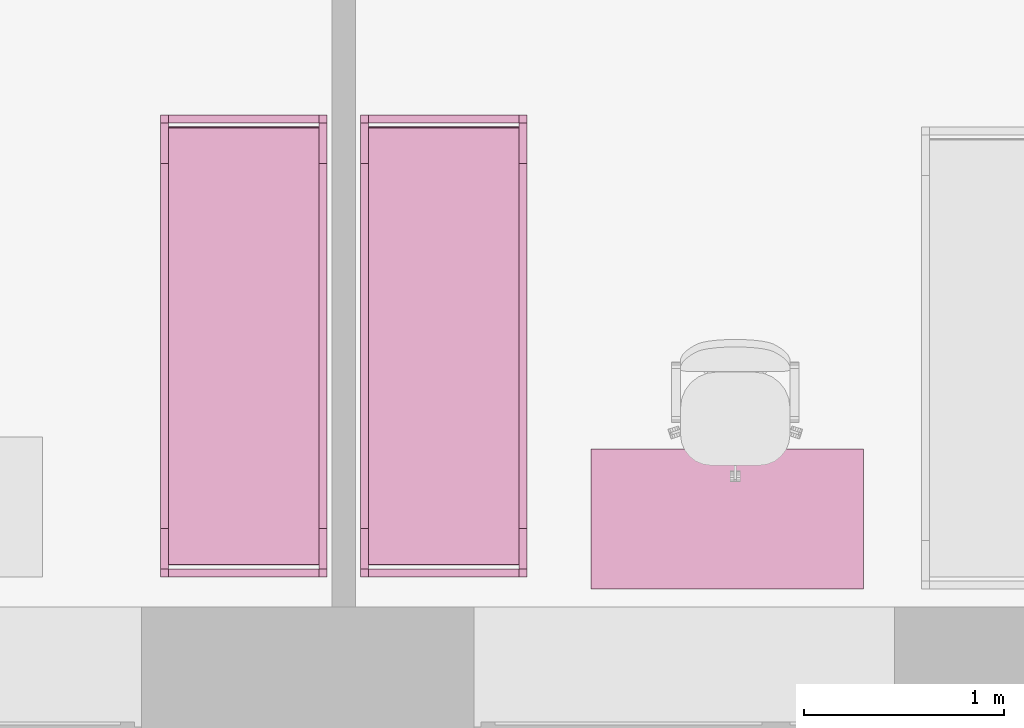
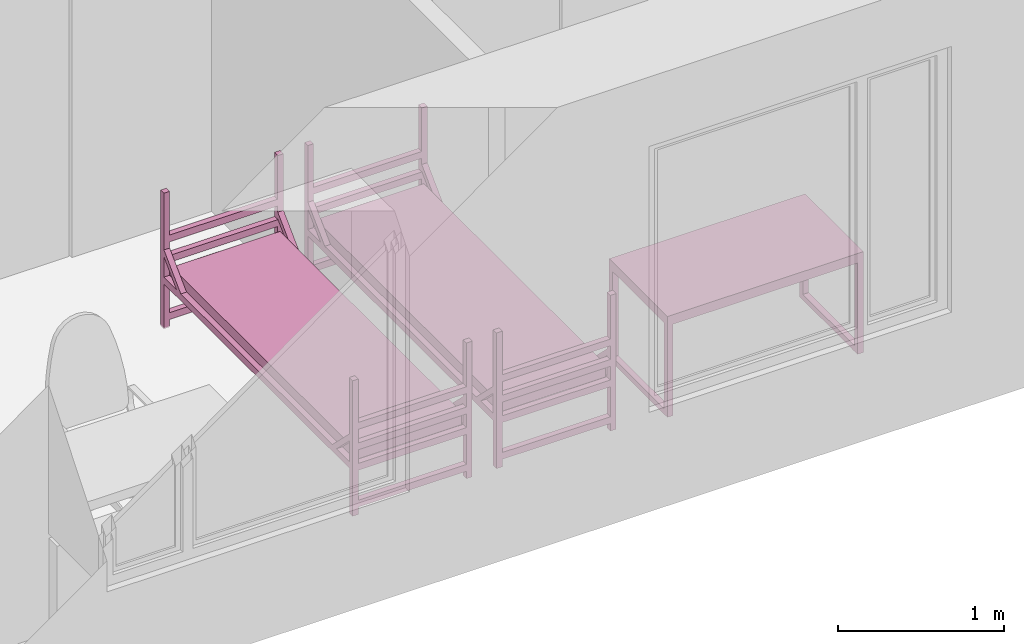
# One storey, part 21 of 46: 3 furnishings.
"""IFC2X3 building model written with IfcOpenShell, lengths in millimetres."""

from ifc_helpers import new_model, entity, si_unit, converted_unit, derived_unit, direction, frame, frame_2d, origin, origin_2d_with_axis, place, context, subcontext, project, spatial, polyline, circle_curve, parameter, trimmed, segment, composite_curve, rectangle, outline, extrude, faceted_brep, source, transform, mapped, material, material_list, type_object, type_shapes, element, save


model = new_model("IFC2X3")

# Units and contexts
model_context = context("Model", 3, precision=0.01, world=origin(), true_north=direction((6.12303176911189e-17, 1.0)))
body_context = subcontext(model_context, "Body", "Model", "MODEL_VIEW")
ifc_project = project(units=[si_unit("LENGTHUNIT", "METRE", prefix="MILLI"), si_unit("AREAUNIT", "SQUARE_METRE"), si_unit("VOLUMEUNIT", "CUBIC_METRE"), converted_unit("PLANEANGLEUNIT", "DEGREE", entity("IfcRatioMeasure", 0.0174532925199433), si_unit("PLANEANGLEUNIT", "RADIAN"), dimensions=[0, 0, 0, 0, 0, 0, 0]), si_unit("MASSUNIT", "GRAM", prefix="KILO"), derived_unit("MASSDENSITYUNIT", [(si_unit("MASSUNIT", "GRAM", prefix="KILO"), 1), (si_unit("LENGTHUNIT", "METRE"), -3)]), si_unit("TIMEUNIT", "SECOND"), si_unit("FREQUENCYUNIT", "HERTZ"), si_unit("THERMODYNAMICTEMPERATUREUNIT", "DEGREE_CELSIUS"), derived_unit("THERMALTRANSMITTANCEUNIT", [(si_unit("MASSUNIT", "GRAM", prefix="KILO"), 1), (si_unit("THERMODYNAMICTEMPERATUREUNIT", "KELVIN"), -1), (si_unit("TIMEUNIT", "SECOND"), -3)]), derived_unit("VOLUMETRICFLOWRATEUNIT", [(si_unit("LENGTHUNIT", "METRE"), 3), (si_unit("TIMEUNIT", "SECOND"), -1)]), si_unit("ELECTRICCURRENTUNIT", "AMPERE"), si_unit("ELECTRICVOLTAGEUNIT", "VOLT"), si_unit("POWERUNIT", "WATT"), si_unit("FORCEUNIT", "NEWTON", prefix="KILO"), si_unit("ILLUMINANCEUNIT", "LUX"), si_unit("LUMINOUSFLUXUNIT", "LUMEN"), si_unit("LUMINOUSINTENSITYUNIT", "CANDELA"), derived_unit("USERDEFINED", [(si_unit("MASSUNIT", "GRAM", prefix="KILO"), -1), (si_unit("LENGTHUNIT", "METRE"), -2), (si_unit("TIMEUNIT", "SECOND"), 3), (si_unit("LUMINOUSFLUXUNIT", "LUMEN"), 1)]), derived_unit("LINEARVELOCITYUNIT", [(si_unit("LENGTHUNIT", "METRE"), 1), (si_unit("TIMEUNIT", "SECOND"), -1)]), si_unit("PRESSUREUNIT", "PASCAL"), derived_unit("USERDEFINED", [(si_unit("LENGTHUNIT", "METRE"), -2), (si_unit("MASSUNIT", "GRAM", prefix="KILO"), 1), (si_unit("TIMEUNIT", "SECOND"), -2)]), derived_unit("LINEARFORCEUNIT", [(si_unit("MASSUNIT", "GRAM", prefix="KILO"), 1), (si_unit("LENGTHUNIT", "METRE"), 1), (si_unit("TIMEUNIT", "SECOND"), -2), (si_unit("LENGTHUNIT", "METRE"), -1)]), derived_unit("PLANARFORCEUNIT", [(si_unit("MASSUNIT", "GRAM", prefix="KILO"), 1), (si_unit("LENGTHUNIT", "METRE"), 1), (si_unit("TIMEUNIT", "SECOND"), -2), (si_unit("LENGTHUNIT", "METRE"), -2)])], contexts=[model_context])

# Site, building, storey, space
site_placement = place(None, origin())
site = spatial("IfcSite", under=ifc_project, at=site_placement, Name="Default", CompositionType="ELEMENT")
building_placement = place(site_placement, origin())
building = spatial("IfcBuilding", under=site, at=building_placement, Name="SMA ARH", CompositionType="ELEMENT")
storey_placement = place(building_placement, frame((0.0, 0.0, 9910.0)))
storey = spatial("IfcBuildingStorey", under=building, at=storey_placement, Name="4 Korrus", CompositionType="ELEMENT", Elevation=9909.9999999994)
space_1_placement = place(storey_placement, origin())
space_1 = spatial("IfcSpace", under=storey, at=space_1_placement, Name="4-14", CompositionType="ELEMENT", InteriorOrExteriorSpace="INTERNAL")

# Furnishing
ifc_material_1 = material(Name="Madrats")
furniture_type_1 = type_object("IfcFurnitureType", Name="Kasarmu voodi ühekordne 2308x830:Kasarmu voodi ühekordne 2308x830", material=ifc_material_1)
shared_shape_1 = source(origin(), body_context, "Body", "SweptSolid", [
    extrude(rectangle(XDim=39.9999999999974, YDim=750.000000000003, at=frame_2d((-1.35003119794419e-13, -2.8421709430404e-14), x_axis=(1.0, 0.0))), frame((1.68638457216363, -1226.7969571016, 55.0), z_axis=(0.0, 0.0, 1.0), x_axis=(0.0, -1.0, 0.0)), (0.0, 0.0, 1.0), 49.9999999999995),
    extrude(rectangle(XDim=39.9999999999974, YDim=750.000000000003, at=frame_2d((-1.35003119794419e-13, -2.8421709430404e-14), x_axis=(1.0, 0.0))), frame((1.68638457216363, -1226.7969571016, 325.0), z_axis=(0.0, 0.0, 1.0), x_axis=(0.0, -1.0, 0.0)), (0.0, 0.0, 1.0), 49.9999999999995),
    extrude(rectangle(XDim=39.9999999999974, YDim=750.000000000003, at=frame_2d((-1.35003119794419e-13, -2.8421709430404e-14), x_axis=(1.0, 0.0))), frame((1.68638457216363, -1226.7969571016, 475.0), z_axis=(0.0, 0.0, 1.0), x_axis=(0.0, -1.0, 0.0)), (0.0, 0.0, 1.0), 49.9999999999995),
    extrude(rectangle(XDim=39.9999999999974, YDim=750.000000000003, at=frame_2d((-1.35003119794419e-13, -2.8421709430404e-14), x_axis=(1.0, 0.0))), frame((1.68638457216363, -1226.7969571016, 625.0), z_axis=(0.0, 0.0, 1.0), x_axis=(0.0, -1.0, 0.0)), (0.0, 0.0, 1.0), 50.0000000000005),
    extrude(rectangle(XDim=39.9999999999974, YDim=750.000000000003, at=frame_2d((1.35003119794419e-13, -2.8421709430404e-14), x_axis=(1.0, 0.0))), frame((1.68638457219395, 1041.2030428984, 55.0), z_axis=(0.0, 0.0, 1.0), x_axis=(0.0, -1.0, 0.0)), (0.0, 0.0, 1.0), 50.0000000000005),
    extrude(rectangle(XDim=39.9999999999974, YDim=750.000000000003, at=frame_2d((1.35003119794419e-13, -2.8421709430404e-14), x_axis=(1.0, 0.0))), frame((1.68638457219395, 1041.2030428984, 325.0), z_axis=(0.0, 0.0, 1.0), x_axis=(0.0, -1.0, 0.0)), (0.0, 0.0, 1.0), 50.0000000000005),
    extrude(rectangle(XDim=39.9999999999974, YDim=750.000000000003, at=frame_2d((1.35003119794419e-13, -2.8421709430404e-14), x_axis=(1.0, 0.0))), frame((1.68638457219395, 1041.2030428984, 475.0), z_axis=(0.0, 0.0, 1.0), x_axis=(0.0, -1.0, 0.0)), (0.0, 0.0, 1.0), 50.0000000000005),
    extrude(rectangle(XDim=39.9999999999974, YDim=750.000000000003, at=frame_2d((1.35003119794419e-13, -2.8421709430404e-14), x_axis=(1.0, 0.0))), frame((1.68638457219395, 1041.2030428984, 625.0), z_axis=(0.0, 0.0, 1.0), x_axis=(0.0, -1.0, 0.0)), (0.0, 0.0, 1.0), 49.9999999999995),
    extrude(outline(composite_curve([segment(trimmed(circle_curve(frame_2d((1085.0, -40.0), x_axis=(1.0, 0.0)), 10.0), [parameter(270.0)], [parameter(0.0)], True, "PARAMETER"), True, "CONTINUOUS"), segment(polyline([(1095.0, -40.0), (1095.0, 40.0)]), True, "CONTINUOUS"), segment(trimmed(circle_curve(frame_2d((1085.0, 40.0), x_axis=(1.0, 0.0)), 10.0), [parameter(0.0)], [parameter(90.0000000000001)], True, "PARAMETER"), True, "CONTINUOUS"), segment(polyline([(1085.0, 50.0), (-1085.0, 50.0)]), True, "CONTINUOUS"), segment(trimmed(circle_curve(frame_2d((-1085.0, 40.0), x_axis=(1.0, 0.0)), 10.0), [parameter(90.0000000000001)], [parameter(180.0)], True, "PARAMETER"), True, "CONTINUOUS"), segment(polyline([(-1095.0, 40.0), (-1095.0, -40.0)]), True, "CONTINUOUS"), segment(trimmed(circle_curve(frame_2d((-1085.0, -40.0), x_axis=(1.0, 0.0)), 10.0), [parameter(180.0)], [parameter(270.0)], True, "PARAMETER"), True, "CONTINUOUS"), segment(polyline([(-1085.0, -50.0), (1085.0, -50.0)]), True, "CONTINUOUS")], self_intersect=False)), frame((-373.313615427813, -92.7969571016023, 405.0), z_axis=(1.0, 0.0, 0.0), x_axis=(0.0, -1.0, 0.0)), (0.0, 0.0, 1.0), 750.000000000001),
    extrude(outline(polyline([(-1114.0, -100.0), (1114.0, -100.0), (1114.0, -50.0), (961.59199141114, -50.0), (1114.0, 100.0), (1114.0, 150.0), (910.789321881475, -50.0), (-910.789321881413, -50.0), (-1114.0, 150.0), (-1114.0, 100.0), (-961.591991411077, -50.0), (-1114.0, -50.0), (-1114.0, -100.0)])), frame((-413.313615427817, -92.7969571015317, 430.0), z_axis=(1.0, 0.0, 0.0), x_axis=(0.0, 1.0, 0.0)), (0.0, 0.0, 1.0), 39.9999999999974),
    extrude(outline(polyline([(-1114.0, -100.0), (1114.0, -100.0), (1114.0, -50.0), (961.591991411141, -50.0), (1114.0, 100.0), (1114.0, 150.0), (910.789321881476, -50.0), (-910.789321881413, -50.0), (-1114.0, 150.0), (-1114.0, 100.0), (-961.591991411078, -50.0), (-1114.0, -50.0), (-1114.0, -100.0)])), frame((376.686384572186, -92.796957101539, 430.0), z_axis=(1.0, 0.0, 0.0), x_axis=(0.0, 1.0, 0.0)), (0.0, 0.0, 1.0), 39.9999999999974),
    extrude(rectangle(XDim=39.9999999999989, YDim=39.9999999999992, at=frame_2d((-6.75015598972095e-14, 0.0), x_axis=(1.0, 0.0))), frame((396.686384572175, -1226.79695710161, 0.0), z_axis=(0.0, 0.0, 1.0), x_axis=(0.0, 1.0, 0.0)), (0.0, 0.0, 1.0), 995.0),
    extrude(rectangle(XDim=39.9999999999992, YDim=39.9999999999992, at=frame_2d((-1.35003119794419e-13, 0.0), x_axis=(1.0, 0.0))), frame((396.686384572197, 1041.20304289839, 0.0), z_axis=(0.0, 0.0, 1.0), x_axis=(0.0, 1.0, 0.0)), (0.0, 0.0, 1.0), 995.0),
    extrude(rectangle(XDim=40.0000000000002, YDim=39.9999999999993, at=frame_2d((-1.35003119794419e-13, 0.0), x_axis=(1.0, 0.0))), frame((-393.313615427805, 1041.2030428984, 0.0), z_axis=(0.0, 0.0, 1.0), x_axis=(0.0, 1.0, 0.0)), (0.0, 0.0, 1.0), 995.0),
    extrude(rectangle(XDim=39.9999999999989, YDim=39.9999999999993, at=frame_2d((-6.75015598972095e-14, 0.0), x_axis=(1.0, 0.0))), frame((-393.313615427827, -1226.7969571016, 0.0), z_axis=(0.0, 0.0, 1.0), x_axis=(0.0, 1.0, 0.0)), (0.0, 0.0, 1.0), 995.0),
])
type_shapes(furniture_type_1, [shared_shape_1])
furnishing_1_placement = place(space_1_placement, frame((7628.8136154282, 1396.79695710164, 0.0)))
element("IfcFurnishingElement", 1, at=furnishing_1_placement, inside=space_1, type_object=furniture_type_1, material=ifc_material_1, Name="Kasarmu voodi ühekordne 2308x830:Kasarmu voodi ühekordne 2308x830", ObjectType="Kasarmu voodi ühekordne 2308x830:Kasarmu voodi ühekordne 2308x830", context=body_context, shape_type="MappedRepresentation", body=[
    mapped(shared_shape_1, transform((0.0, 0.0, 0.0), scale=1.0)),
])

# Space
space_2_placement = place(storey_placement, origin())
space_2 = spatial("IfcSpace", under=storey, at=space_2_placement, Name="4-13", CompositionType="ELEMENT", InteriorOrExteriorSpace="INTERNAL")

# Furnishings
ifc_material_2 = material(Name="<Unnamed>")
ifc_material_list = material_list([ifc_material_2, ifc_material_2])
furniture_type_2 = type_object("IfcFurnitureType", Name="kirjutuslaud 1360x700mm:kirjutuslaud 1360x700mm", material=ifc_material_list)
shared_shape_2 = source(origin(), body_context, "Body", "Brep", [
    faceted_brep([(680.0, -350.0, 720.0), (680.0, 350.0, 720.0), (680.0, 350.0, 750.0), (680.0, -350.0, 750.0), (-680.0, -350.0, 720.0), (-680.0, -350.0, 750.0), (-680.0, 350.0, 750.0), (-680.0, 350.0, 720.0)], [[[0, 1, 2, 3]], [[4, 5, 6, 7]], [[1, 0, 4, 7]], [[2, 1, 7, 6]], [[3, 2, 6, 5]], [[0, 3, 5, 4]]]),
    faceted_brep([(-640.0, -310.0, 680.0), (-640.0, 310.0, 680.0), (-640.0, 310.0, 720.0), (-640.0, -310.0, 720.0), (-680.0, -350.0, 720.0), (-680.0, 350.0, 720.0), (-680.0, 350.0, 10.0), (-680.0, -350.0, 10.0), (-680.0, 310.0, 680.0), (-680.0, -310.0, 680.0), (-680.0, -310.0, 50.0), (-680.0, 310.0, 50.0), (-640.0, -350.0, 10.0), (-640.0, -350.0, 680.0), (640.0, -350.0, 680.0), (640.0, -350.0, 10.0), (680.0, -350.0, 10.0), (680.0, -350.0, 720.0), (-640.0, 350.0, 10.0), (680.0, 350.0, 720.0), (680.0, 350.0, 10.0), (640.0, 350.0, 10.0), (640.0, 350.0, 680.0), (-640.0, 350.0, 680.0), (640.0, 310.0, 720.0), (640.0, -310.0, 720.0), (-640.0, 310.0, 50.0), (-640.0, -310.0, 50.0), (640.0, -310.0, 680.0), (640.0, 310.0, 680.0), (680.0, 310.0, 680.0), (680.0, 310.0, 50.0), (680.0, -310.0, 50.0), (680.0, -310.0, 680.0), (640.0, -310.0, 50.0), (640.0, 310.0, 50.0)], [[[0, 1, 2, 3]], [[4, 5, 6, 7], [8, 9, 10, 11]], [[4, 7, 12, 13, 14, 15, 16, 17]], [[18, 12, 7, 6]], [[6, 5, 19, 20, 21, 22, 23, 18]], [[19, 5, 4, 17], [2, 24, 25, 3]], [[26, 1, 8, 11]], [[27, 26, 11, 10]], [[0, 27, 10, 9]], [[1, 0, 9, 8]], [[14, 13, 0, 28]], [[24, 2, 1, 29]], [[3, 25, 28, 0]], [[17, 16, 20, 19], [30, 31, 32, 33]], [[21, 15, 14, 28, 34, 35, 29, 22]], [[20, 16, 15, 21]], [[31, 30, 29, 35]], [[32, 31, 35, 34]], [[33, 32, 34, 28]], [[30, 33, 28, 29]], [[29, 28, 25, 24]], [[29, 1, 23, 22]], [[12, 18, 23, 1, 26, 27, 0, 13]]]),
    faceted_brep([(-663.729456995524, -270.466136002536, 0.0), (-659.847171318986, -269.955023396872, 0.0), (-655.964885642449, -270.466136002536, 0.0), (-652.347171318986, -271.964642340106, 0.0), (-649.240569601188, -274.348421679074, 0.0), (-646.85679026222, -277.455023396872, 0.0), (-645.35828392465, -281.072737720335, 0.0), (-644.847171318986, -284.955023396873, 0.0), (-645.35828392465, -288.83730907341, 0.0), (-646.85679026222, -292.455023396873, 0.0), (-649.240569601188, -295.561625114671, 0.0), (-652.347171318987, -297.945404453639, 0.0), (-655.964885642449, -299.443910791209, 0.0), (-659.847171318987, -299.955023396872, 0.0), (-663.729456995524, -299.443910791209, 0.0), (-667.347171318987, -297.945404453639, 0.0), (-670.453773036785, -295.561625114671, 0.0), (-672.837552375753, -292.455023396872, 0.0), (-674.336058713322, -288.83730907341, 0.0), (-674.847171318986, -284.955023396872, 0.0), (-674.336058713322, -281.072737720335, 0.0), (-672.837552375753, -277.455023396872, 0.0), (-670.453773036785, -274.348421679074, 0.0), (-667.347171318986, -271.964642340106, 0.0), (-655.964885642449, -299.443910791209, 10.0), (-652.347171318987, -297.945404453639, 10.0), (-649.240569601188, -295.561625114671, 10.0), (-646.85679026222, -292.455023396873, 10.0), (-645.35828392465, -288.83730907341, 10.0), (-644.847171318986, -284.955023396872, 10.0), (-645.35828392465, -281.072737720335, 10.0), (-646.85679026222, -277.455023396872, 10.0), (-649.240569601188, -274.348421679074, 10.0), (-652.347171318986, -271.964642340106, 10.0), (-655.964885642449, -270.466136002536, 10.0), (-659.847171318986, -269.955023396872, 10.0), (-663.729456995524, -270.466136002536, 10.0), (-667.347171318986, -271.964642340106, 10.0), (-670.453773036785, -274.348421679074, 10.0), (-672.837552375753, -277.455023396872, 10.0), (-674.336058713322, -281.072737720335, 10.0), (-674.847171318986, -284.955023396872, 10.0), (-674.336058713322, -288.83730907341, 10.0), (-672.837552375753, -292.455023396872, 10.0), (-670.453773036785, -295.561625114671, 10.0), (-667.347171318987, -297.945404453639, 10.0), (-663.729456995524, -299.443910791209, 10.0), (-659.847171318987, -299.955023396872, 10.0)], [[[0, 1, 2, 3, 4, 5, 6, 7, 8, 9, 10, 11, 12, 13, 14, 15, 16, 17, 18, 19, 20, 21, 22, 23]], [[24, 25, 26, 27, 28, 29, 30, 31, 32, 33, 34, 35, 36, 37, 38, 39, 40, 41, 42, 43, 44, 45, 46, 47]], [[18, 42, 41, 19]], [[17, 43, 42, 18]], [[45, 44, 16, 15]], [[17, 16, 44, 43]], [[46, 45, 15, 14]], [[47, 46, 14, 13]], [[12, 24, 47, 13]], [[11, 25, 24, 12]], [[27, 26, 10, 9]], [[11, 10, 26, 25]], [[28, 27, 9, 8]], [[29, 28, 8, 7]], [[6, 30, 29, 7]], [[5, 31, 30, 6]], [[33, 32, 4, 3]], [[5, 4, 32, 31]], [[34, 33, 3, 2]], [[35, 34, 2, 1]], [[0, 36, 35, 1]], [[23, 37, 36, 0]], [[39, 38, 22, 21]], [[23, 22, 38, 37]], [[40, 39, 21, 20]], [[41, 40, 20, 19]]]),
    faceted_brep([(-655.964885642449, 270.466136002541, 10.0), (-652.347171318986, 271.964642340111, 10.0), (-649.240569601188, 274.348421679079, 10.0), (-646.85679026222, 277.455023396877, 10.0), (-645.35828392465, 281.07273772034, 10.0), (-644.847171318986, 284.955023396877, 10.0), (-645.35828392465, 288.837309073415, 10.0), (-646.85679026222, 292.455023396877, 10.0), (-649.240569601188, 295.561625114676, 10.0), (-652.347171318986, 297.945404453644, 10.0), (-655.964885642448, 299.443910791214, 10.0), (-659.847171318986, 299.955023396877, 10.0), (-663.729456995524, 299.443910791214, 10.0), (-667.347171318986, 297.945404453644, 10.0), (-670.453773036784, 295.561625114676, 10.0), (-672.837552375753, 292.455023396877, 10.0), (-674.336058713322, 288.837309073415, 10.0), (-674.847171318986, 284.955023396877, 10.0), (-674.336058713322, 281.07273772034, 10.0), (-672.837552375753, 277.455023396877, 10.0), (-670.453773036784, 274.348421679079, 10.0), (-667.347171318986, 271.964642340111, 10.0), (-663.729456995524, 270.466136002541, 10.0), (-659.847171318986, 269.955023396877, 10.0), (-655.964885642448, 299.443910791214, 0.0), (-652.347171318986, 297.945404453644, 0.0), (-649.240569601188, 295.561625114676, 0.0), (-646.85679026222, 292.455023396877, 0.0), (-645.35828392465, 288.837309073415, 0.0), (-644.847171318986, 284.955023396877, 0.0), (-645.35828392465, 281.07273772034, 0.0), (-646.85679026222, 277.455023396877, 0.0), (-649.240569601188, 274.348421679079, 0.0), (-652.347171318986, 271.964642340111, 0.0), (-655.964885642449, 270.466136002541, 0.0), (-659.847171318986, 269.955023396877, 0.0), (-663.729456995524, 270.466136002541, 0.0), (-667.347171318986, 271.964642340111, 0.0), (-670.453773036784, 274.348421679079, 0.0), (-672.837552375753, 277.455023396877, 0.0), (-674.336058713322, 281.07273772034, 0.0), (-674.847171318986, 284.955023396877, 0.0), (-674.336058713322, 288.837309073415, 0.0), (-672.837552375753, 292.455023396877, 0.0), (-670.453773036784, 295.561625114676, 0.0), (-667.347171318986, 297.945404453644, 0.0), (-663.729456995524, 299.443910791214, 0.0), (-659.847171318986, 299.955023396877, 0.0)], [[[0, 1, 2, 3, 4, 5, 6, 7, 8, 9, 10, 11, 12, 13, 14, 15, 16, 17, 18, 19, 20, 21, 22, 23]], [[24, 25, 26, 27, 28, 29, 30, 31, 32, 33, 34, 35, 36, 37, 38, 39, 40, 41, 42, 43, 44, 45, 46, 47]], [[40, 18, 17, 41]], [[39, 19, 18, 40]], [[21, 20, 38, 37]], [[39, 38, 20, 19]], [[22, 21, 37, 36]], [[23, 22, 36, 35]], [[34, 0, 23, 35]], [[33, 1, 0, 34]], [[3, 2, 32, 31]], [[33, 32, 2, 1]], [[4, 3, 31, 30]], [[5, 4, 30, 29]], [[28, 6, 5, 29]], [[27, 7, 6, 28]], [[9, 8, 26, 25]], [[27, 26, 8, 7]], [[10, 9, 25, 24]], [[11, 10, 24, 47]], [[46, 12, 11, 47]], [[45, 13, 12, 46]], [[15, 14, 44, 43]], [[45, 44, 14, 13]], [[16, 15, 43, 42]], [[17, 16, 42, 41]]]),
    faceted_brep([(656.270543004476, -270.466136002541, 0.0), (660.152828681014, -269.955023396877, 0.0), (664.035114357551, -270.466136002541, 0.0), (667.652828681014, -271.96464234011, 0.0), (670.759430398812, -274.348421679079, 0.0), (673.14320973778, -277.455023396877, 0.0), (674.64171607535, -281.072737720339, 0.0), (675.152828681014, -284.955023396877, 0.0), (674.64171607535, -288.837309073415, 0.0), (673.14320973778, -292.455023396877, 0.0), (670.759430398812, -295.561625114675, 0.0), (667.652828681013, -297.945404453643, 0.0), (664.035114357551, -299.443910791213, 0.0), (660.152828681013, -299.955023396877, 0.0), (656.270543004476, -299.443910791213, 0.0), (652.652828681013, -297.945404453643, 0.0), (649.546226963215, -295.561625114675, 0.0), (647.162447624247, -292.455023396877, 0.0), (645.663941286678, -288.837309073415, 0.0), (645.152828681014, -284.955023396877, 0.0), (645.663941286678, -281.072737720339, 0.0), (647.162447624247, -277.455023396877, 0.0), (649.546226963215, -274.348421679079, 0.0), (652.652828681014, -271.96464234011, 0.0), (664.035114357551, -299.443910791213, 10.0), (667.652828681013, -297.945404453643, 10.0), (670.759430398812, -295.561625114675, 10.0), (673.14320973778, -292.455023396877, 10.0), (674.64171607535, -288.837309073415, 10.0), (675.152828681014, -284.955023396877, 10.0), (674.64171607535, -281.072737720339, 10.0), (673.14320973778, -277.455023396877, 10.0), (670.759430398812, -274.348421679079, 10.0), (667.652828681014, -271.96464234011, 10.0), (664.035114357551, -270.466136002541, 10.0), (660.152828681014, -269.955023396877, 10.0), (656.270543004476, -270.466136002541, 10.0), (652.652828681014, -271.96464234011, 10.0), (649.546226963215, -274.348421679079, 10.0), (647.162447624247, -277.455023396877, 10.0), (645.663941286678, -281.072737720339, 10.0), (645.152828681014, -284.955023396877, 10.0), (645.663941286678, -288.837309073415, 10.0), (647.162447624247, -292.455023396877, 10.0), (649.546226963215, -295.561625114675, 10.0), (652.652828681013, -297.945404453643, 10.0), (656.270543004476, -299.443910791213, 10.0), (660.152828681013, -299.955023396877, 10.0)], [[[0, 1, 2, 3, 4, 5, 6, 7, 8, 9, 10, 11, 12, 13, 14, 15, 16, 17, 18, 19, 20, 21, 22, 23]], [[24, 25, 26, 27, 28, 29, 30, 31, 32, 33, 34, 35, 36, 37, 38, 39, 40, 41, 42, 43, 44, 45, 46, 47]], [[18, 42, 41, 19]], [[17, 43, 42, 18]], [[45, 44, 16, 15]], [[17, 16, 44, 43]], [[46, 45, 15, 14]], [[47, 46, 14, 13]], [[12, 24, 47, 13]], [[11, 25, 24, 12]], [[27, 26, 10, 9]], [[11, 10, 26, 25]], [[28, 27, 9, 8]], [[29, 28, 8, 7]], [[6, 30, 29, 7]], [[5, 31, 30, 6]], [[33, 32, 4, 3]], [[5, 4, 32, 31]], [[34, 33, 3, 2]], [[35, 34, 2, 1]], [[0, 36, 35, 1]], [[23, 37, 36, 0]], [[39, 38, 22, 21]], [[23, 22, 38, 37]], [[40, 39, 21, 20]], [[41, 40, 20, 19]]]),
    faceted_brep([(664.035114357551, 270.466136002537, 10.0), (667.652828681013, 271.964642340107, 10.0), (670.759430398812, 274.348421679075, 10.0), (673.14320973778, 277.455023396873, 10.0), (674.64171607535, 281.072737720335, 10.0), (675.152828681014, 284.955023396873, 10.0), (674.64171607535, 288.837309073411, 10.0), (673.14320973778, 292.455023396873, 10.0), (670.759430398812, 295.561625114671, 10.0), (667.652828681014, 297.94540445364, 10.0), (664.035114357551, 299.443910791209, 10.0), (660.152828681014, 299.955023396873, 10.0), (656.270543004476, 299.443910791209, 10.0), (652.652828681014, 297.94540445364, 10.0), (649.546226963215, 295.561625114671, 10.0), (647.162447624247, 292.455023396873, 10.0), (645.663941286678, 288.837309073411, 10.0), (645.152828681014, 284.955023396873, 10.0), (645.663941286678, 281.072737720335, 10.0), (647.162447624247, 277.455023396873, 10.0), (649.546226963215, 274.348421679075, 10.0), (652.652828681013, 271.964642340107, 10.0), (656.270543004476, 270.466136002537, 10.0), (660.152828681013, 269.955023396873, 10.0), (664.035114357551, 299.443910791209, 0.0), (667.652828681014, 297.94540445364, 0.0), (670.759430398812, 295.561625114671, 0.0), (673.14320973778, 292.455023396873, 0.0), (674.64171607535, 288.837309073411, 0.0), (675.152828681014, 284.955023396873, 0.0), (674.64171607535, 281.072737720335, 0.0), (673.14320973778, 277.455023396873, 0.0), (670.759430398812, 274.348421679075, 0.0), (667.652828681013, 271.964642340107, 0.0), (664.035114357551, 270.466136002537, 0.0), (660.152828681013, 269.955023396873, 0.0), (656.270543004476, 270.466136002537, 0.0), (652.652828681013, 271.964642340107, 0.0), (649.546226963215, 274.348421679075, 0.0), (647.162447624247, 277.455023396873, 0.0), (645.663941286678, 281.072737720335, 0.0), (645.152828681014, 284.955023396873, 0.0), (645.663941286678, 288.837309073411, 0.0), (647.162447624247, 292.455023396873, 0.0), (649.546226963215, 295.561625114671, 0.0), (652.652828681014, 297.94540445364, 0.0), (656.270543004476, 299.443910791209, 0.0), (660.152828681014, 299.955023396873, 0.0)], [[[0, 1, 2, 3, 4, 5, 6, 7, 8, 9, 10, 11, 12, 13, 14, 15, 16, 17, 18, 19, 20, 21, 22, 23]], [[24, 25, 26, 27, 28, 29, 30, 31, 32, 33, 34, 35, 36, 37, 38, 39, 40, 41, 42, 43, 44, 45, 46, 47]], [[40, 18, 17, 41]], [[39, 19, 18, 40]], [[21, 20, 38, 37]], [[39, 38, 20, 19]], [[22, 21, 37, 36]], [[23, 22, 36, 35]], [[34, 0, 23, 35]], [[33, 1, 0, 34]], [[3, 2, 32, 31]], [[33, 32, 2, 1]], [[4, 3, 31, 30]], [[5, 4, 30, 29]], [[28, 6, 5, 29]], [[27, 7, 6, 28]], [[9, 8, 26, 25]], [[27, 26, 8, 7]], [[10, 9, 25, 24]], [[11, 10, 24, 47]], [[46, 12, 11, 47]], [[45, 13, 12, 46]], [[15, 14, 44, 43]], [[45, 44, 14, 13]], [[16, 15, 43, 42]], [[17, 16, 42, 41]]]),
])
type_shapes(furniture_type_2, [shared_shape_2])
furnishing_2_placement = place(space_2_placement, frame((10045.5000000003, 440.0, 0.0)))
element("IfcFurnishingElement", 2, at=furnishing_2_placement, inside=space_2, type_object=furniture_type_2, Name="kirjutuslaud 1360x700mm:kirjutuslaud 1360x700mm", ObjectType="kirjutuslaud 1360x700mm:kirjutuslaud 1360x700mm", context=body_context, shape_type="MappedRepresentation", body=[
    mapped(shared_shape_2, transform((0.0, 0.0, 0.0), scale=1.0)),
])
furniture_type_3 = type_object("IfcFurnitureType", Name="Kasarmu voodi ühekordne 2308x830:Kasarmu voodi ühekordne 2308x830", material=ifc_material_1)
shared_shape_3 = source(origin(), body_context, "Body", "SweptSolid", [
    extrude(rectangle(XDim=750.000000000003, YDim=39.9999999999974, at=frame_2d((0.0, 1.35003119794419e-13), x_axis=(1.0, 0.0))), frame((1.68638457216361, 1226.7969571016, 55.0)), (0.0, 0.0, 1.0), 49.9999999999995),
    extrude(rectangle(XDim=750.000000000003, YDim=39.9999999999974, at=frame_2d((0.0, 1.35003119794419e-13), x_axis=(1.0, 0.0))), frame((1.68638457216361, 1226.7969571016, 325.0)), (0.0, 0.0, 1.0), 49.9999999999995),
    extrude(rectangle(XDim=750.000000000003, YDim=39.9999999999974, at=frame_2d((0.0, 1.35003119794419e-13), x_axis=(1.0, 0.0))), frame((1.68638457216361, 1226.7969571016, 475.0)), (0.0, 0.0, 1.0), 49.9999999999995),
    extrude(rectangle(XDim=750.000000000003, YDim=39.9999999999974, at=frame_2d((0.0, 1.35003119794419e-13), x_axis=(1.0, 0.0))), frame((1.68638457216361, 1226.7969571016, 625.0)), (0.0, 0.0, 1.0), 50.0000000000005),
    extrude(rectangle(XDim=750.000000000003, YDim=39.9999999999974, at=origin_2d_with_axis()), frame((1.68638457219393, -1041.2030428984, 55.0)), (0.0, 0.0, 1.0), 50.0000000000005),
    extrude(rectangle(XDim=750.000000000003, YDim=39.9999999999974, at=origin_2d_with_axis()), frame((1.68638457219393, -1041.2030428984, 325.0)), (0.0, 0.0, 1.0), 50.0000000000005),
    extrude(rectangle(XDim=750.000000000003, YDim=39.9999999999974, at=origin_2d_with_axis()), frame((1.68638457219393, -1041.2030428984, 475.0)), (0.0, 0.0, 1.0), 50.0000000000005),
    extrude(rectangle(XDim=750.000000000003, YDim=39.9999999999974, at=origin_2d_with_axis()), frame((1.68638457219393, -1041.2030428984, 625.0)), (0.0, 0.0, 1.0), 49.9999999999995),
    extrude(outline(composite_curve([segment(polyline([(-1085.0, -50.0), (1085.0, -50.0)]), True, "CONTINUOUS"), segment(trimmed(circle_curve(frame_2d((1085.0, -40.0), x_axis=(-1.0, 0.0)), 10.0), [parameter(90.0000000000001)], [parameter(180.0)], True, "PARAMETER"), True, "CONTINUOUS"), segment(polyline([(1095.0, -40.0), (1095.0, 40.0)]), True, "CONTINUOUS"), segment(trimmed(circle_curve(frame_2d((1085.0, 40.0), x_axis=(-1.0, 0.0)), 10.0), [parameter(180.0)], [parameter(270.0)], True, "PARAMETER"), True, "CONTINUOUS"), segment(polyline([(1085.0, 50.0), (-1085.0, 50.0)]), True, "CONTINUOUS"), segment(trimmed(circle_curve(frame_2d((-1085.0, 40.0), x_axis=(-1.0, 0.0)), 10.0), [parameter(270.0)], [parameter(0.0)], True, "PARAMETER"), True, "CONTINUOUS"), segment(polyline([(-1095.0, 40.0), (-1095.0, -40.0)]), True, "CONTINUOUS"), segment(trimmed(circle_curve(frame_2d((-1085.0, -40.0), x_axis=(-1.0, 0.0)), 10.0), [parameter(0.0)], [parameter(90.0000000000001)], True, "PARAMETER"), True, "CONTINUOUS")], self_intersect=False)), frame((-373.313615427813, 92.7969571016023, 405.0), z_axis=(1.0, 0.0, 0.0), x_axis=(0.0, -1.0, 0.0)), (0.0, 0.0, 1.0), 750.000000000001),
    extrude(outline(polyline([(-100.0, -1114.0), (-50.0, -1114.0), (-50.0, -961.591991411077), (100.0, -1114.0), (150.0, -1114.0), (-50.0, -910.789321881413), (-50.0, 910.789321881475), (150.0, 1114.0), (100.0, 1114.0), (-50.0, 961.591991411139), (-50.0, 1114.0), (-100.0, 1114.0), (-100.0, -1114.0)])), frame((-413.313615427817, 92.7969571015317, 430.0), z_axis=(1.0, 0.0, 0.0), x_axis=(0.0, 0.0, 1.0)), (0.0, 0.0, 1.0), 39.9999999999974),
    extrude(outline(polyline([(-100.0, -1114.0), (-50.0, -1114.0), (-50.0, -961.591991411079), (100.0, -1114.0), (150.0, -1114.0), (-50.0, -910.789321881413), (-50.0, 910.789321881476), (150.0, 1114.0), (100.0, 1114.0), (-50.0, 961.591991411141), (-50.0, 1114.0), (-100.0, 1114.0), (-100.0, -1114.0)])), frame((376.686384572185, 92.796957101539, 430.0), z_axis=(1.0, 0.0, 0.0), x_axis=(0.0, 0.0, 1.0)), (0.0, 0.0, 1.0), 39.9999999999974),
    extrude(rectangle(XDim=39.9999999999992, YDim=39.9999999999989, at=frame_2d((0.0, -6.75015598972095e-14), x_axis=(1.0, 0.0))), frame((396.686384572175, 1226.79695710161, 0.0), z_axis=(0.0, 0.0, 1.0), x_axis=(-1.0, 0.0, 0.0)), (0.0, 0.0, 1.0), 995.0),
    extrude(rectangle(XDim=39.9999999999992, YDim=39.9999999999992, at=origin_2d_with_axis()), frame((396.686384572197, -1041.20304289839, 0.0), z_axis=(0.0, 0.0, 1.0), x_axis=(-1.0, 0.0, 0.0)), (0.0, 0.0, 1.0), 995.0),
    extrude(rectangle(XDim=39.9999999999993, YDim=40.0000000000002, at=origin_2d_with_axis()), frame((-393.313615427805, -1041.2030428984, 0.0), z_axis=(0.0, 0.0, 1.0), x_axis=(-1.0, 0.0, 0.0)), (0.0, 0.0, 1.0), 995.0),
    extrude(rectangle(XDim=39.9999999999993, YDim=39.9999999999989, at=frame_2d((0.0, -6.75015598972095e-14), x_axis=(1.0, 0.0))), frame((-393.313615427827, 1226.7969571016, 0.0), z_axis=(0.0, 0.0, 1.0), x_axis=(-1.0, 0.0, 0.0)), (0.0, 0.0, 1.0), 995.0),
])
type_shapes(furniture_type_3, [shared_shape_3])
furnishing_3_placement = place(space_2_placement, frame((8631.18638457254, 1396.79695710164, 0.0), z_axis=(0.0, 0.0, 1.0), x_axis=(-1.0, 0.0, 0.0)))
element("IfcFurnishingElement", 3, at=furnishing_3_placement, inside=space_2, type_object=furniture_type_3, material=ifc_material_1, Name="Kasarmu voodi ühekordne 2308x830:Kasarmu voodi ühekordne 2308x830", ObjectType="Kasarmu voodi ühekordne 2308x830:Kasarmu voodi ühekordne 2308x830", context=body_context, shape_type="MappedRepresentation", body=[
    mapped(shared_shape_3, transform((0.0, 0.0, 0.0), scale=1.0)),
])

save(model, "model.ifc")
